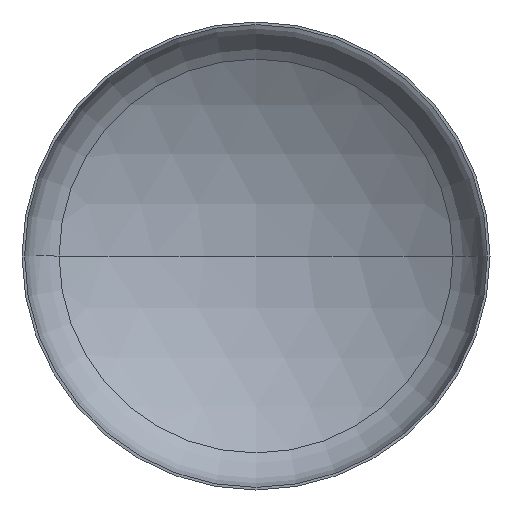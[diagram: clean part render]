
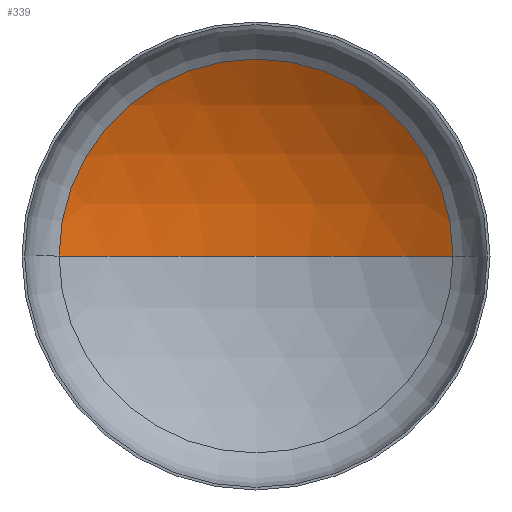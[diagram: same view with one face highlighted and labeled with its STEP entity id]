
A CAD part, front view. The second image highlights one B-rep face of the part: STEP entity #339.
In plain terms, the highlighted spherical face has radius 720 mm.
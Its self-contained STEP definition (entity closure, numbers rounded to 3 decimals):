
#8 = EDGE_LOOP ( 'NONE', ( #136, #131, #54 ) ) ;
#10 = VERTEX_POINT ( 'NONE', #263 ) ;
#11 = AXIS2_PLACEMENT_3D ( 'NONE', #119, #88, #123 ) ;
#44 = AXIS2_PLACEMENT_3D ( 'NONE', #166, #190, #192 ) ;
#46 = CARTESIAN_POINT ( 'NONE',  ( 0., 246.669, 0. ) ) ;
#47 = AXIS2_PLACEMENT_3D ( 'NONE', #323, #322, #302 ) ;
#48 = AXIS2_PLACEMENT_3D ( 'NONE', #377, #319, #316 ) ;
#54 = ORIENTED_EDGE ( 'NONE', *, *, #74, .T. ) ;
#74 = EDGE_CURVE ( 'NONE', #10, #129, #243, .T. ) ;
#75 = EDGE_CURVE ( 'NONE', #234, #10, #142, .T. ) ;
#76 = EDGE_CURVE ( 'NONE', #234, #129, #354, .T. ) ;
#88 = DIRECTION ( 'NONE',  ( 0., 0., -1. ) ) ;
#89 = SPHERICAL_SURFACE ( 'NONE', #11, 720. ) ;
#119 = CARTESIAN_POINT ( 'NONE',  ( 0., -473.331, 0. ) ) ;
#123 = DIRECTION ( 'NONE',  ( -1., 0., 0. ) ) ;
#129 = VERTEX_POINT ( 'NONE', #196 ) ;
#131 = ORIENTED_EDGE ( 'NONE', *, *, #75, .T. ) ;
#136 = ORIENTED_EDGE ( 'NONE', *, *, #76, .F. ) ;
#142 = CIRCLE ( 'NONE', #47, 720. ) ;
#166 = CARTESIAN_POINT ( 'NONE',  ( 0., -473.331, 0. ) ) ;
#185 = FACE_OUTER_BOUND ( 'NONE', #8, .T. ) ;
#190 = DIRECTION ( 'NONE',  ( 0., 0., 1. ) ) ;
#192 = DIRECTION ( 'NONE',  ( 1., 0., 0. ) ) ;
#196 = CARTESIAN_POINT ( 'NONE',  ( -378.621, 139.08, 0. ) ) ;
#234 = VERTEX_POINT ( 'NONE', #46 ) ;
#243 = CIRCLE ( 'NONE', #48, 378.621 ) ;
#263 = CARTESIAN_POINT ( 'NONE',  ( 378.621, 139.08, 0. ) ) ;
#302 = DIRECTION ( 'NONE',  ( -1., 0., 0. ) ) ;
#316 = DIRECTION ( 'NONE',  ( 1., 0., 0. ) ) ;
#319 = DIRECTION ( 'NONE',  ( 0., -1., 0. ) ) ;
#322 = DIRECTION ( 'NONE',  ( 0., 0., -1. ) ) ;
#323 = CARTESIAN_POINT ( 'NONE',  ( 0., -473.331, 0. ) ) ;
#339 = ADVANCED_FACE ( 'NONE', ( #185 ), #89, .F. ) ;
#354 = CIRCLE ( 'NONE', #44, 720. ) ;
#377 = CARTESIAN_POINT ( 'NONE',  ( 0., 139.08, 0. ) ) ;
